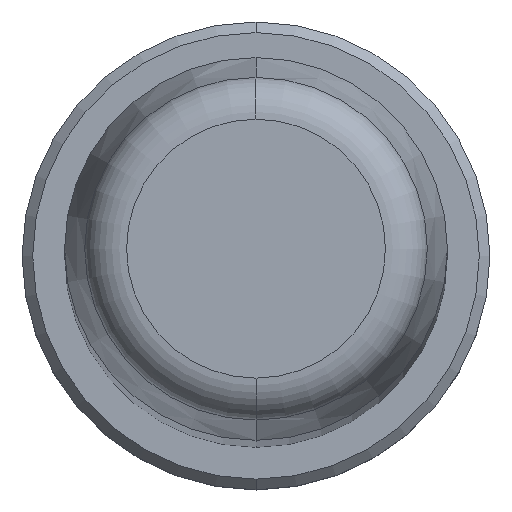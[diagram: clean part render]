
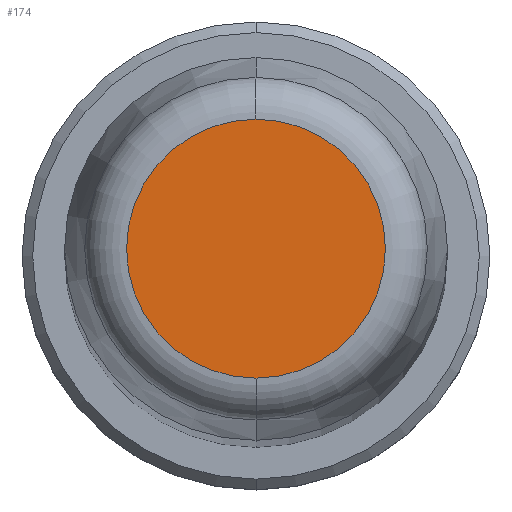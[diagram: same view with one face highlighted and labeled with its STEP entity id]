
A CAD part, top view. The second image highlights one B-rep face of the part: STEP entity #174.
In plain terms, the highlighted planar face has unit normal (0, 0, 1).
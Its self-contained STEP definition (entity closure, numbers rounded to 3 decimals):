
#1=CARTESIAN_POINT('',(0.,0.,200.));
#2=DIRECTION('',(0.,0.,-1.));
#3=DIRECTION('',(0.,-1.,0.));
#4=AXIS2_PLACEMENT_3D('',#1,#2,#3);
#6=CARTESIAN_POINT('',(0.,0.,200.));
#7=DIRECTION('',(0.,0.,-1.));
#8=DIRECTION('',(0.,1.,0.));
#9=AXIS2_PLACEMENT_3D('',#6,#7,#8);
#159=CARTESIAN_POINT('',(0.,-6.088,200.));
#160=CARTESIAN_POINT('',(0.,6.088,200.));
#161=VERTEX_POINT('',#159);
#162=VERTEX_POINT('',#160);
#163=CARTESIAN_POINT('',(0.,0.,200.));
#164=DIRECTION('',(0.,0.,1.));
#165=DIRECTION('',(0.,-1.,0.));
#166=AXIS2_PLACEMENT_3D('',#163,#164,#165);
#167=PLANE('',#166);
#169=ORIENTED_EDGE('',*,*,#168,.T.);
#171=ORIENTED_EDGE('',*,*,#170,.T.);
#172=EDGE_LOOP('',(#169,#171));
#173=FACE_OUTER_BOUND('',#172,.F.);
#174=ADVANCED_FACE('',(#173),#167,.T.);
#5=CIRCLE('',#4,6.088);
#10=CIRCLE('',#9,6.088);
#168=EDGE_CURVE('',#161,#162,#5,.T.);
#170=EDGE_CURVE('',#162,#161,#10,.T.);
